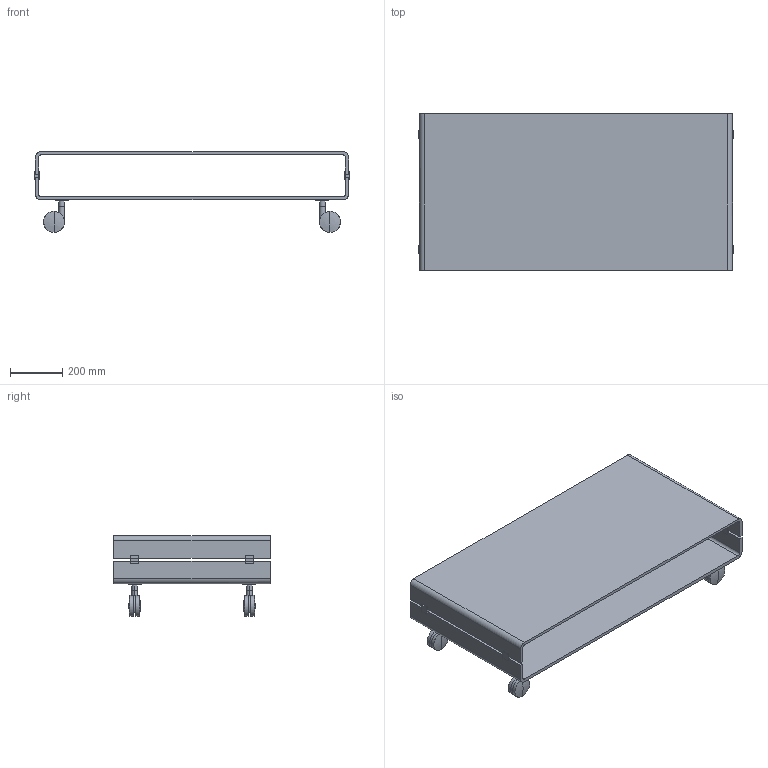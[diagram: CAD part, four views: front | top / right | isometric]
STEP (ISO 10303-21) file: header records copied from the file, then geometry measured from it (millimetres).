
FILE_DESCRIPTION(/* description */ (''),/* implementation_level */ '2;1');
FILE_NAME(/* name */ '203.324 - C&C 120x60 ruote',/* time_stamp */ '2010-11-04T09:53:50+01:00',/* author */ (''),/* organization */ (''),/* preprocessor_version */ 'ST-DEVELOPER v10',/* originating_system */ '',/* authorisation */ '');
FILE_SCHEMA (('CONFIG_CONTROL_DESIGN'));
Length unit declared in the file: centimetre
Products named in the file (1): 1
Bounding box: 1208 x 600 x 309 mm (x, y, z)
Volume: 20270881.1 mm3; surface area: 3601859 mm2
Topology: 38 solids, 38 shells, 268 faces, 632 edges, 376 vertices
Faces by surface type: bspline 156, plane 112
Entity records: 7276 total; most frequent: CARTESIAN_POINT 3602, ORIENTED_EDGE 1136, EDGE_CURVE 568, VERTEX_POINT 376, B_SPLINE_CURVE_WITH_KNOTS 288, ADVANCED_FACE 268, FACE_OUTER_BOUND 268, EDGE_LOOP 268
